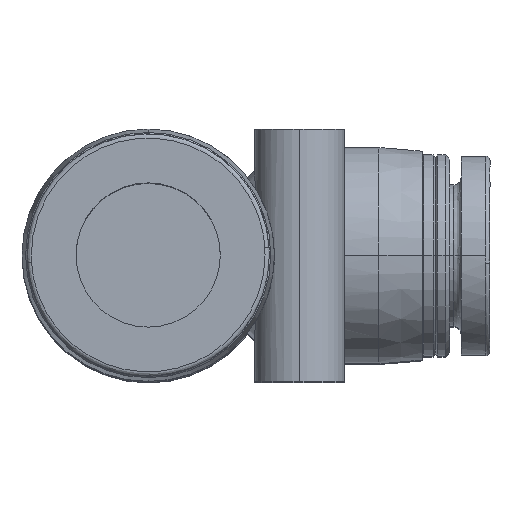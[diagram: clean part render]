
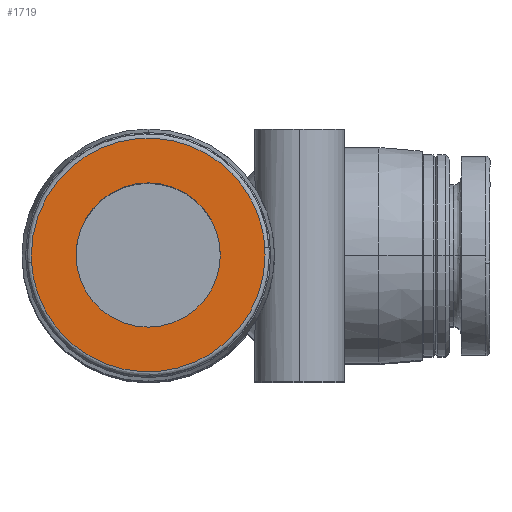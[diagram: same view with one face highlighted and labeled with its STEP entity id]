
A CAD part, top view. The second image highlights one B-rep face of the part: STEP entity #1719.
In plain terms, the highlighted planar face has unit normal (0, 0, 1).
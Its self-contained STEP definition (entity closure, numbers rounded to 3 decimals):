
#187 = EDGE_CURVE ( 'NONE', #2438, #5961, #6696, .T. ) ;
#329 = ORIENTED_EDGE ( 'NONE', *, *, #5449, .F. ) ;
#365 = CARTESIAN_POINT ( 'NONE',  ( 0., 0., 40. ) ) ;
#469 = ORIENTED_EDGE ( 'NONE', *, *, #6617, .T. ) ;
#497 = EDGE_CURVE ( 'NONE', #1279, #2438, #3350, .T. ) ;
#510 = DIRECTION ( 'NONE',  ( 0., 0., -1. ) ) ;
#582 = AXIS2_PLACEMENT_3D ( 'NONE', #3967, #510, #4581 ) ;
#795 = CARTESIAN_POINT ( 'NONE',  ( -5., 0., 40. ) ) ;
#880 = CARTESIAN_POINT ( 'NONE',  ( -8.6, 8.6, 40. ) ) ;
#929 = DIRECTION ( 'NONE',  ( 1., 0., 0. ) ) ;
#1157 = CARTESIAN_POINT ( 'NONE',  ( 8.082, 0.534, 40. ) ) ;
#1185 = CARTESIAN_POINT ( 'NONE',  ( 8.094, 0.356, 40. ) ) ;
#1187 = VERTEX_POINT ( 'NONE', #4763 ) ;
#1279 = VERTEX_POINT ( 'NONE', #1845 ) ;
#1617 =( BOUNDED_CURVE ( )  B_SPLINE_CURVE ( 3, ( #2331, #5878, #2926, #7006 ),
 .UNSPECIFIED., .F., .F. ) 
 B_SPLINE_CURVE_WITH_KNOTS ( ( 4, 4 ),
 ( 0.979, 1. ),
 .UNSPECIFIED. ) 
 CURVE ( )  GEOMETRIC_REPRESENTATION_ITEM ( )  RATIONAL_B_SPLINE_CURVE ( ( 1., 1., 1., 1. ) ) 
 REPRESENTATION_ITEM ( '' )  );
#1719 = ADVANCED_FACE ( '58', ( #6397, #3256 ), #4374, .T. ) ;
#1808 = EDGE_LOOP ( 'NONE', ( #5621, #6214, #5147, #329 ) ) ;
#1845 = CARTESIAN_POINT ( 'NONE',  ( 8.082, 0.534, 40. ) ) ;
#2183 = CIRCLE ( 'NONE', #582, 5. ) ;
#2269 = CARTESIAN_POINT ( 'NONE',  ( -8.082, -0.534, 40. ) ) ;
#2331 = CARTESIAN_POINT ( 'NONE',  ( -8.082, -0.534, 40. ) ) ;
#2438 = VERTEX_POINT ( 'NONE', #5409 ) ;
#2493 = VERTEX_POINT ( 'NONE', #795 ) ;
#2593 = ORIENTED_EDGE ( 'NONE', *, *, #7361, .T. ) ;
#2606 = DIRECTION ( 'NONE',  ( 0., 0., 1. ) ) ;
#2870 = CARTESIAN_POINT ( 'NONE',  ( 8.1, 0., 40. ) ) ;
#2926 = CARTESIAN_POINT ( 'NONE',  ( -8.1, -0.178, 40. ) ) ;
#3256 = FACE_OUTER_BOUND ( 'NONE', #1808, .T. ) ;
#3350 =( BOUNDED_CURVE ( )  B_SPLINE_CURVE ( 3, ( #1157, #1185, #6364, #2870 ),
 .UNSPECIFIED., .F., .F. ) 
 B_SPLINE_CURVE_WITH_KNOTS ( ( 4, 4 ),
 ( 0.979, 1. ),
 .UNSPECIFIED. ) 
 CURVE ( )  GEOMETRIC_REPRESENTATION_ITEM ( )  RATIONAL_B_SPLINE_CURVE ( ( 1., 1., 1., 1. ) ) 
 REPRESENTATION_ITEM ( '' )  );
#3500 = CARTESIAN_POINT ( 'NONE',  ( 8.082, 0.534, 40. ) ) ;
#3877 = AXIS2_PLACEMENT_3D ( 'NONE', #880, #2606, #6710 ) ;
#3967 = CARTESIAN_POINT ( 'NONE',  ( 0., 0., 40. ) ) ;
#3981 = EDGE_CURVE ( 'NONE', #1187, #1279, #5971, .T. ) ;
#4071 = CARTESIAN_POINT ( 'NONE',  ( -8.1, 0., 40. ) ) ;
#4374 = PLANE ( 'NONE',  #3877 ) ;
#4431 = DIRECTION ( 'NONE',  ( 0., 0., -1. ) ) ;
#4527 = AXIS2_PLACEMENT_3D ( 'NONE', #365, #4431, #929 ) ;
#4581 = DIRECTION ( 'NONE',  ( 1., 0., 0. ) ) ;
#4610 = EDGE_LOOP ( 'NONE', ( #469, #2593 ) ) ;
#4763 = CARTESIAN_POINT ( 'NONE',  ( -8.1, 0., 40. ) ) ;
#5147 = ORIENTED_EDGE ( 'NONE', *, *, #3981, .F. ) ;
#5300 = CARTESIAN_POINT ( 'NONE',  ( -8.1, 15.189, 40. ) ) ;
#5340 = CARTESIAN_POINT ( 'NONE',  ( -8.082, -0.534, 40. ) ) ;
#5409 = CARTESIAN_POINT ( 'NONE',  ( 8.1, 0., 40. ) ) ;
#5449 = EDGE_CURVE ( 'NONE', #5961, #1187, #1617, .T. ) ;
#5621 = ORIENTED_EDGE ( 'NONE', *, *, #187, .F. ) ;
#5878 = CARTESIAN_POINT ( 'NONE',  ( -8.094, -0.356, 40. ) ) ;
#5952 = CARTESIAN_POINT ( 'NONE',  ( 8.1, 0., 40. ) ) ;
#5961 = VERTEX_POINT ( 'NONE', #2269 ) ;
#5971 =( BOUNDED_CURVE ( )  B_SPLINE_CURVE ( 3, ( #4071, #5300, #6996, #3500 ),
 .UNSPECIFIED., .F., .F. ) 
 B_SPLINE_CURVE_WITH_KNOTS ( ( 4, 4 ),
 ( 0., 0.979 ),
 .UNSPECIFIED. ) 
 CURVE ( )  GEOMETRIC_REPRESENTATION_ITEM ( )  RATIONAL_B_SPLINE_CURVE ( ( 1., 0.355, 0.355, 1. ) ) 
 REPRESENTATION_ITEM ( '' )  );
#6067 = VERTEX_POINT ( 'NONE', #7056 ) ;
#6069 = CARTESIAN_POINT ( 'NONE',  ( -7.081, -15.69, 40. ) ) ;
#6157 = CIRCLE ( 'NONE', #4527, 5. ) ;
#6214 = ORIENTED_EDGE ( 'NONE', *, *, #497, .F. ) ;
#6364 = CARTESIAN_POINT ( 'NONE',  ( 8.1, 0.178, 40. ) ) ;
#6397 = FACE_BOUND ( 'NONE', #4610, .T. ) ;
#6456 = CARTESIAN_POINT ( 'NONE',  ( 8.1, -15.189, 40. ) ) ;
#6617 = EDGE_CURVE ( 'NONE', #6067, #2493, #6157, .T. ) ;
#6696 =( BOUNDED_CURVE ( )  B_SPLINE_CURVE ( 3, ( #5952, #6456, #6069, #5340 ),
 .UNSPECIFIED., .F., .F. ) 
 B_SPLINE_CURVE_WITH_KNOTS ( ( 4, 4 ),
 ( 0., 0.979 ),
 .UNSPECIFIED. ) 
 CURVE ( )  GEOMETRIC_REPRESENTATION_ITEM ( )  RATIONAL_B_SPLINE_CURVE ( ( 1., 0.355, 0.355, 1. ) ) 
 REPRESENTATION_ITEM ( '' )  );
#6710 = DIRECTION ( 'NONE',  ( 1., 0., 0. ) ) ;
#6996 = CARTESIAN_POINT ( 'NONE',  ( 7.081, 15.69, 40. ) ) ;
#7006 = CARTESIAN_POINT ( 'NONE',  ( -8.1, 0., 40. ) ) ;
#7056 = CARTESIAN_POINT ( 'NONE',  ( 5., 0., 40. ) ) ;
#7361 = EDGE_CURVE ( 'NONE', #2493, #6067, #2183, .T. ) ;
